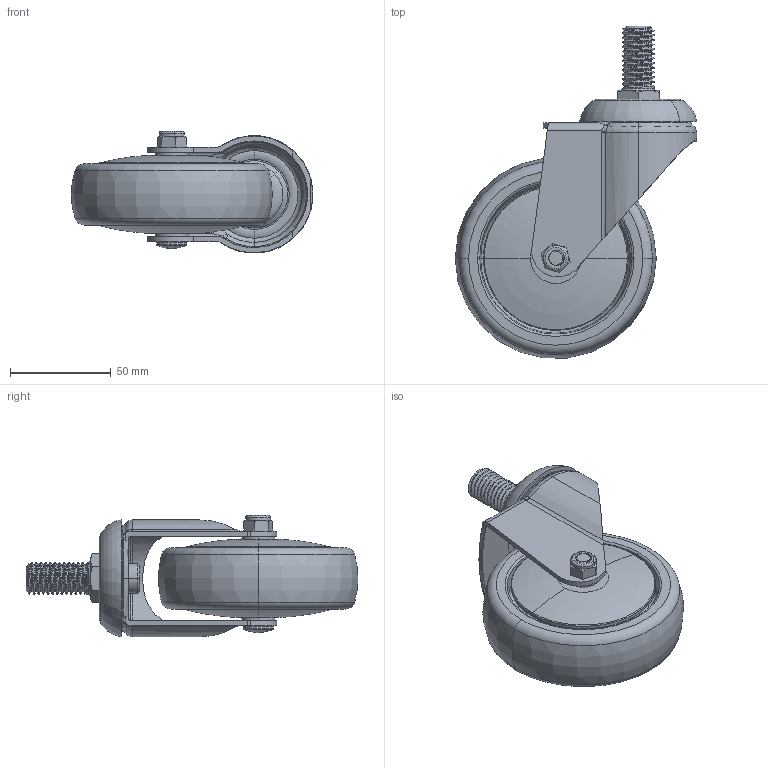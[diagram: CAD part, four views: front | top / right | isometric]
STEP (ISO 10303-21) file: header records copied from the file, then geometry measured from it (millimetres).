
FILE_DESCRIPTION (( 'STEP AP203' ), '1' );
FILE_NAME ('4111604002011-儀器白鐵活動PPR輪.STEP', '2025-11-10T08:42:49', ( '' ), ( '' ), 'SwSTEP 2.0', 'SolidWorks 2019', '' );
FILE_SCHEMA (( 'CONFIG_CONTROL_DESIGN' ));
Length unit declared in the file: metre
Products named in the file (1): 4111604002011-儀器白鐵活動PPR輪
Bounding box: 120.14 x 165.06 x 60.64 mm (x, y, z)
Surface area: 67623.8 mm2 (no closed solid volume)
Topology: 0 solids, 12 shells, 230 faces, 599 edges, 382 vertices
Faces by surface type: cylinder 68, torus 67, plane 55, bspline 20, cone 14, sphere 6
Entity records: 11074 total; most frequent: CARTESIAN_POINT 5693, DIRECTION 1123, ORIENTED_EDGE 1084, EDGE_CURVE 597, AXIS2_PLACEMENT_3D 479, VERTEX_POINT 382, CIRCLE 268, EDGE_LOOP 250
